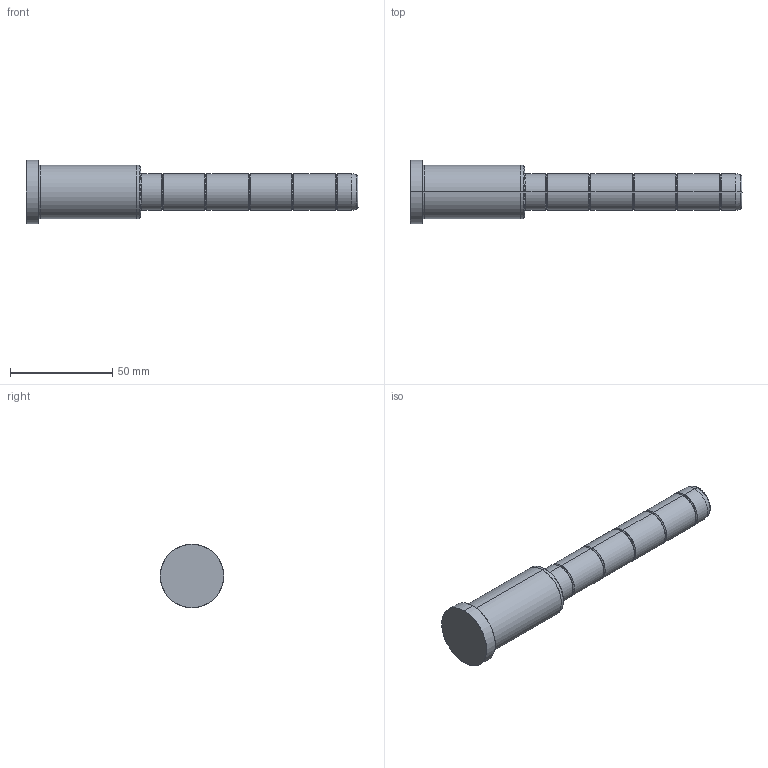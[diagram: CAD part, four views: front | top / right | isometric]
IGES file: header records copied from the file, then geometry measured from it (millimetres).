
Start section: SolidWorks IGES file using analytic representation for surfaces
Global section: file name: C:\Documents and Settings\kalite-mail\Desktop\IGS\D02\18\D02 - 18x56x106.IGS; native system: SolidWorks 2008; preprocessor: SolidWorks 2008; author: kalite-mail; date: 080616.153459; units: millimetre
Bounding box: 162 x 31 x 31 mm (x, y, z)
Surface area: 12228.9 mm2 (no closed solid volume)
Topology: 0 solids, 0 shells, 54 faces, 576 edges, 576 vertices
Faces by surface type: bspline 30, revolution 24
